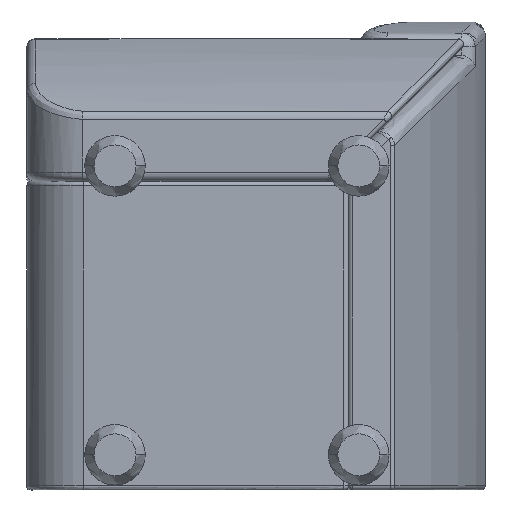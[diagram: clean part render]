
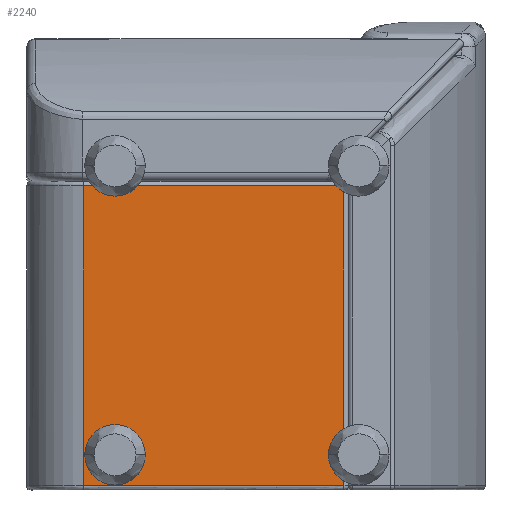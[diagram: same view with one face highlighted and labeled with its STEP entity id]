
A CAD part, front view. The second image highlights one B-rep face of the part: STEP entity #2240.
In plain terms, the highlighted planar face has unit normal (0, -1, 0).
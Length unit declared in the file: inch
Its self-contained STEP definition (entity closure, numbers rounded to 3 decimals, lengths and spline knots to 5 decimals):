
#184=LINE('',#7594,#280);
#185=LINE('',#7596,#281);
#186=LINE('',#7598,#282);
#187=LINE('',#7599,#283);
#280=VECTOR('',#2954,39.37008);
#281=VECTOR('',#2955,0.3937);
#282=VECTOR('',#2956,0.3937);
#283=VECTOR('',#2957,39.37008);
#308=PLANE('',#2481);
#517=FACE_OUTER_BOUND('',#662,.T.);
#662=EDGE_LOOP('',(#1801,#1802,#1803,#1804));
#984=VERTEX_POINT('',#7592);
#985=VERTEX_POINT('',#7593);
#986=VERTEX_POINT('',#7595);
#987=VERTEX_POINT('',#7597);
#1260=EDGE_CURVE('',#984,#985,#184,.T.);
#1261=EDGE_CURVE('',#986,#984,#185,.T.);
#1262=EDGE_CURVE('',#987,#986,#186,.T.);
#1263=EDGE_CURVE('',#985,#987,#187,.T.);
#1801=ORIENTED_EDGE('',*,*,#1260,.F.);
#1802=ORIENTED_EDGE('',*,*,#1261,.F.);
#1803=ORIENTED_EDGE('',*,*,#1262,.F.);
#1804=ORIENTED_EDGE('',*,*,#1263,.F.);
#2240=ADVANCED_FACE('',(#517),#308,.T.);
#2481=AXIS2_PLACEMENT_3D('',#7591,#2952,#2953);
#2952=DIRECTION('center_axis',(0.,-1.,
0.));
#2953=DIRECTION('ref_axis',(-1.,0.,0.));
#2954=DIRECTION('',(0.,0.,1.));
#2955=DIRECTION('',(-1.,0.,0.));
#2956=DIRECTION('',(0.,0.,-1.));
#2957=DIRECTION('',(1.,0.,0.));
#7591=CARTESIAN_POINT('Origin',(3.19684,5.80153,-42.43484));
#7592=CARTESIAN_POINT('',(-7.90446,5.79848,-10.27434));
#7593=CARTESIAN_POINT('',(-7.90446,5.79848,15.86188));
#7594=CARTESIAN_POINT('',(-7.90446,5.79848,-42.43484));
#7595=CARTESIAN_POINT('',(14.78953,5.80471,-10.27434));
#7596=CARTESIAN_POINT('',(14.78953,5.80471,-10.27434));
#7597=CARTESIAN_POINT('',(14.78953,5.80471,15.86188));
#7598=CARTESIAN_POINT('',(14.78953,5.80471,15.86188));
#7599=CARTESIAN_POINT('',(3.19684,5.80153,15.86188));
